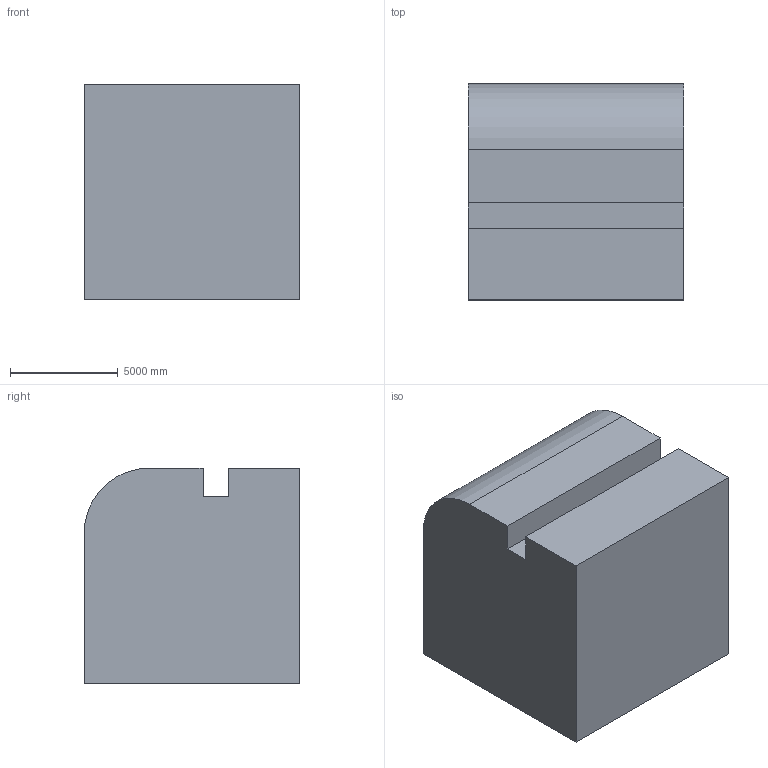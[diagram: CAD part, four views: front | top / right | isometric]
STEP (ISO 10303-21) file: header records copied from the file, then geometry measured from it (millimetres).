
FILE_DESCRIPTION (( 'STEP AP203' ), '1' );
FILE_NAME ('72.STEP', '2022-07-28T13:32:52', ( 'user' ), ( '' ), 'SwSTEP 2.0', 'SolidWorks 2021', '' );
FILE_SCHEMA (( 'CONFIG_CONTROL_DESIGN' ));
Length unit declared in the file: centimetre
Products named in the file (1): 72
Bounding box: 10000 x 10000 x 10000 mm (x, y, z)
Volume: 964569312179.4 mm3; surface area: 605821788.9 mm2
Topology: 1 solids, 1 shells, 11 faces, 27 edges, 18 vertices
Faces by surface type: plane 10, cylinder 1
Entity records: 400 total; most frequent: CARTESIAN_POINT 57, ORIENTED_EDGE 54, DIRECTION 53, EDGE_CURVE 27, LINE 25, VECTOR 25, VERTEX_POINT 18, AXIS2_PLACEMENT_3D 14
